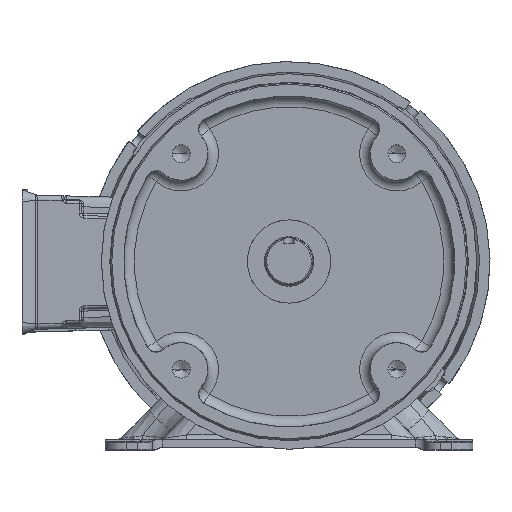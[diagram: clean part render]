
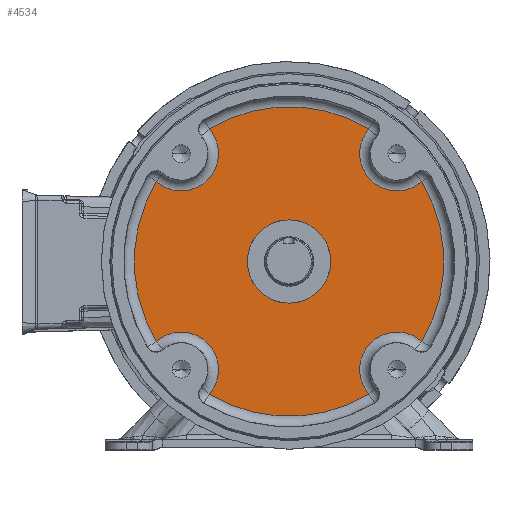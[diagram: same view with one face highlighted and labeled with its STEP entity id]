
A CAD part, top view. The second image highlights one B-rep face of the part: STEP entity #4534.
In plain terms, the highlighted planar face has unit normal (0, 0, 1).
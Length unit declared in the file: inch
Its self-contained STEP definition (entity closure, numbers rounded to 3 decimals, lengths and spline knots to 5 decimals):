
#1236=CARTESIAN_POINT('',(2.5668,-2.5668,-0.53));
#1237=DIRECTION('',(0.,0.,-1.));
#1238=DIRECTION('',(-0.75,-0.661,0.));
#1239=AXIS2_PLACEMENT_3D('',#1236,#1237,#1238);
#1251=CARTESIAN_POINT('',(0.,0.,-0.53));
#1252=DIRECTION('',(0.,0.,1.));
#1253=DIRECTION('',(0.,1.,0.));
#1254=AXIS2_PLACEMENT_3D('',#1251,#1252,#1253);
#1256=CARTESIAN_POINT('',(0.,0.,-0.53));
#1257=DIRECTION('',(0.,0.,1.));
#1258=DIRECTION('',(0.,-1.,0.));
#1259=AXIS2_PLACEMENT_3D('',#1256,#1257,#1258);
#1266=CARTESIAN_POINT('',(0.,0.,-0.53));
#1267=DIRECTION('',(0.,0.,1.));
#1268=DIRECTION('',(0.856,-0.516,0.));
#1269=AXIS2_PLACEMENT_3D('',#1266,#1267,#1268);
#1296=CARTESIAN_POINT('',(2.5668,2.5668,-0.53));
#1297=DIRECTION('',(0.,0.,-1.));
#1298=DIRECTION('',(0.661,-0.75,0.));
#1299=AXIS2_PLACEMENT_3D('',#1296,#1297,#1298);
#1321=CARTESIAN_POINT('',(0.,0.,-0.53));
#1322=DIRECTION('',(0.,0.,1.));
#1323=DIRECTION('',(0.516,0.856,0.));
#1324=AXIS2_PLACEMENT_3D('',#1321,#1322,#1323);
#1341=CARTESIAN_POINT('',(-2.5668,2.5668,-0.53));
#1342=DIRECTION('',(0.,0.,-1.));
#1343=DIRECTION('',(0.75,0.661,0.));
#1344=AXIS2_PLACEMENT_3D('',#1341,#1342,#1343);
#1366=CARTESIAN_POINT('',(0.,0.,-0.53));
#1367=DIRECTION('',(0.,0.,1.));
#1368=DIRECTION('',(-0.856,0.516,0.));
#1369=AXIS2_PLACEMENT_3D('',#1366,#1367,#1368);
#1391=CARTESIAN_POINT('',(-2.5668,-2.5668,-0.53));
#1392=DIRECTION('',(0.,0.,-1.));
#1393=DIRECTION('',(-0.661,0.75,0.));
#1394=AXIS2_PLACEMENT_3D('',#1391,#1392,#1393);
#1416=CARTESIAN_POINT('',(0.,0.,-0.53));
#1417=DIRECTION('',(0.,0.,1.));
#1418=DIRECTION('',(-0.516,-0.856,0.));
#1419=AXIS2_PLACEMENT_3D('',#1416,#1417,#1418);
#3695=CARTESIAN_POINT('',(1.90128,-3.15382,-0.53));
#3697=VERTEX_POINT('',#3695);
#3699=CARTESIAN_POINT('',(3.15382,-1.90128,-0.53));
#3701=VERTEX_POINT('',#3699);
#3705=CARTESIAN_POINT('',(-1.90128,-3.15382,-0.53));
#3707=VERTEX_POINT('',#3705);
#3709=CARTESIAN_POINT('',(-3.15382,-1.90128,-0.53));
#3711=VERTEX_POINT('',#3709);
#3715=CARTESIAN_POINT('',(-3.15382,1.90128,-0.53));
#3717=VERTEX_POINT('',#3715);
#3721=CARTESIAN_POINT('',(-1.90128,3.15382,-0.53));
#3723=VERTEX_POINT('',#3721);
#3727=CARTESIAN_POINT('',(1.90128,3.15382,-0.53));
#3729=VERTEX_POINT('',#3727);
#3733=CARTESIAN_POINT('',(3.15382,1.90128,-0.53));
#3735=VERTEX_POINT('',#3733);
#3958=CARTESIAN_POINT('',(0.,0.9915,-0.53));
#3959=CARTESIAN_POINT('',(0.,-0.9915,-0.53));
#3960=VERTEX_POINT('',#3958);
#3961=VERTEX_POINT('',#3959);
#4506=CARTESIAN_POINT('',(0.,0.,-0.53));
#4507=DIRECTION('',(0.,0.,1.));
#4508=DIRECTION('',(0.,1.,0.));
#4509=AXIS2_PLACEMENT_3D('',#4506,#4507,#4508);
#4510=PLANE('',#4509);
#4512=ORIENTED_EDGE('',*,*,#4511,.F.);
#4513=ORIENTED_EDGE('',*,*,#4498,.F.);
#4515=ORIENTED_EDGE('',*,*,#4514,.F.);
#4517=ORIENTED_EDGE('',*,*,#4516,.F.);
#4519=ORIENTED_EDGE('',*,*,#4518,.F.);
#4521=ORIENTED_EDGE('',*,*,#4520,.F.);
#4523=ORIENTED_EDGE('',*,*,#4522,.F.);
#4525=ORIENTED_EDGE('',*,*,#4524,.F.);
#4526=EDGE_LOOP('',(#4512,#4513,#4515,#4517,#4519,#4521,#4523,#4525));
#4527=FACE_OUTER_BOUND('',#4526,.F.);
#4529=ORIENTED_EDGE('',*,*,#4528,.T.);
#4531=ORIENTED_EDGE('',*,*,#4530,.T.);
#4532=EDGE_LOOP('',(#4529,#4531));
#4533=FACE_BOUND('',#4532,.F.);
#4534=ADVANCED_FACE('',(#4527,#4533),#4510,.T.);
#1240=CIRCLE('',#1239,0.88742);
#1255=CIRCLE('',#1254,0.9915);
#1260=CIRCLE('',#1259,0.9915);
#1270=CIRCLE('',#1269,3.68258);
#1300=CIRCLE('',#1299,0.88742);
#1325=CIRCLE('',#1324,3.68258);
#1345=CIRCLE('',#1344,0.88742);
#1370=CIRCLE('',#1369,3.68258);
#1395=CIRCLE('',#1394,0.88742);
#1420=CIRCLE('',#1419,3.68258);
#4498=EDGE_CURVE('',#3697,#3701,#1240,.T.);
#4511=EDGE_CURVE('',#3701,#3735,#1270,.T.);
#4514=EDGE_CURVE('',#3707,#3697,#1420,.T.);
#4516=EDGE_CURVE('',#3711,#3707,#1395,.T.);
#4518=EDGE_CURVE('',#3717,#3711,#1370,.T.);
#4520=EDGE_CURVE('',#3723,#3717,#1345,.T.);
#4522=EDGE_CURVE('',#3729,#3723,#1325,.T.);
#4524=EDGE_CURVE('',#3735,#3729,#1300,.T.);
#4528=EDGE_CURVE('',#3960,#3961,#1255,.T.);
#4530=EDGE_CURVE('',#3961,#3960,#1260,.T.);
